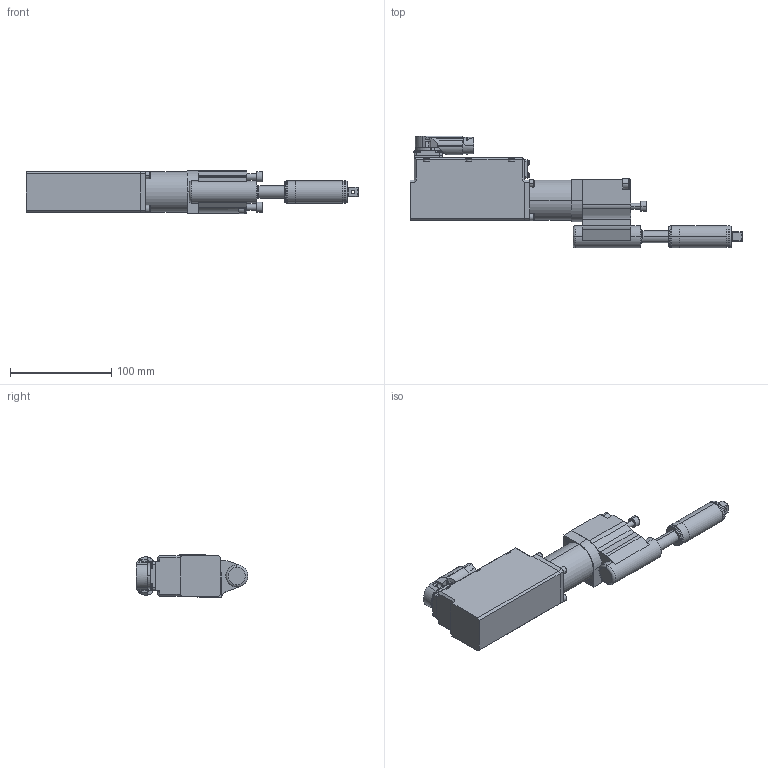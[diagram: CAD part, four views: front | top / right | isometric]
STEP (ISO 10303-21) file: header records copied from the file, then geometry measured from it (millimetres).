
FILE_DESCRIPTION (( 'STEP AP214' ), '1' );
FILE_NAME ('70121603_KSX1015OF25.STEP', '2020-01-15T13:26:37', ( 'admin' ), ( '' ), 'SwSTEP 2.0', 'SolidWorks 2017', '' );
FILE_SCHEMA (( 'AUTOMOTIVE_DESIGN' ));
Length unit declared in the file: millimetre
Products named in the file (10): 7002387_3; 70111043; 70111005; 70111010; 70111000_KSX1_Stecker_vorne; 70111180_Pos_vorne; 70111180; 70111180_2; 70111000; 70121603_KSX1015OF25
Assembly tree (9 placements, depth 4):
  70121603_KSX1015OF25
    70111000_KSX1_Stecker_vorne
      70111000
      70111180_Pos_vorne
        70111180_2
        70111180
    70111010
    70111005
    70111043
    7002387_3
Bounding box: 327.7 x 110.39 x 42.53 mm (x, y, z)
Volume: 510487 mm3; surface area: 97497.6 mm2
Topology: 11 solids, 13 shells, 1903 faces, 4880 edges, 3089 vertices
Faces by surface type: cylinder 778, plane 619, cone 296, torus 119, sphere 48, bspline 43
Entity records: 69456 total; most frequent: CARTESIAN_POINT 16478, ORIENTED_EDGE 9620, DIRECTION 9261, EDGE_CURVE 4810, AXIS2_PLACEMENT_3D 3681, VERTEX_POINT 3089, EDGE_LOOP 2083, ADVANCED_FACE 1903
